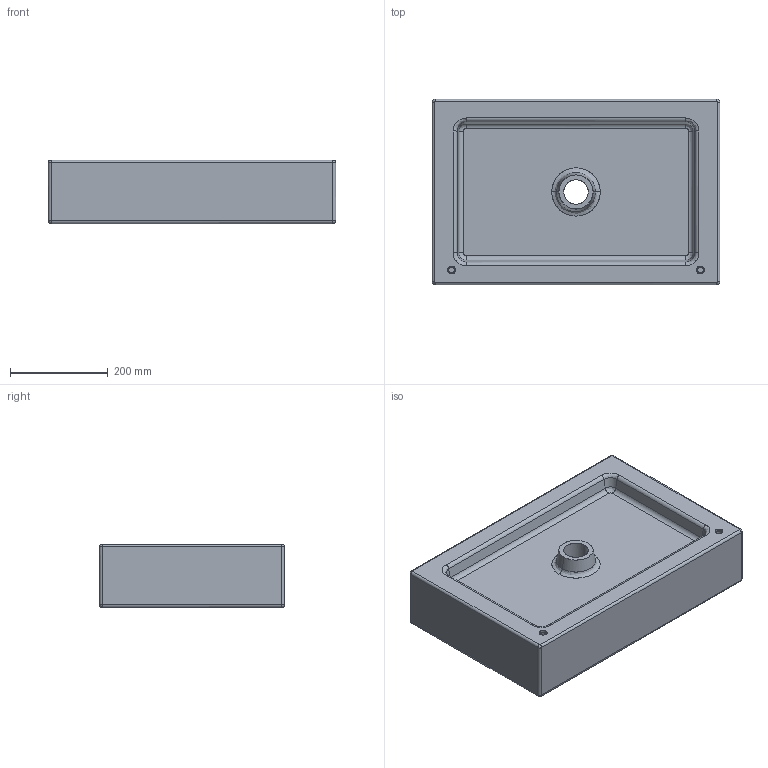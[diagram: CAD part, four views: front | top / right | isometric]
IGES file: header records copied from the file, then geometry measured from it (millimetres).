
Start section: Comment
Global section: file name: Teorema 60.igs; native system:  By UGS Corp.; preprocessor: XPlus GENERIC/IGES 3.0; author: Author; organization: Title; date: 20100623.100625; units: millimetre
Bounding box: 590 x 380 x 130 mm (x, y, z)
Surface area: 827400.5 mm2 (no closed solid volume)
Topology: 0 solids, 0 shells, 97 faces, 416 edges, 408 vertices
Faces by surface type: bspline 97
